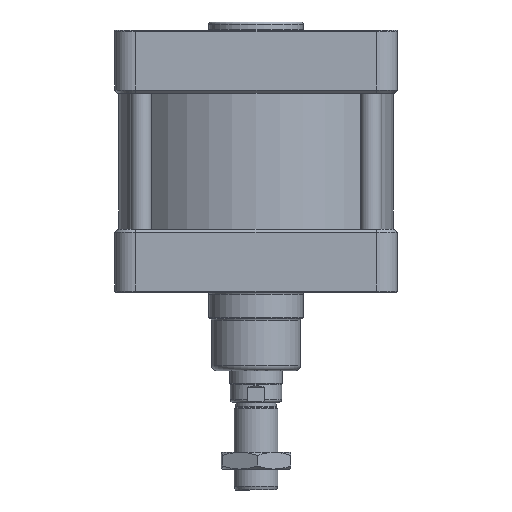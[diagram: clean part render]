
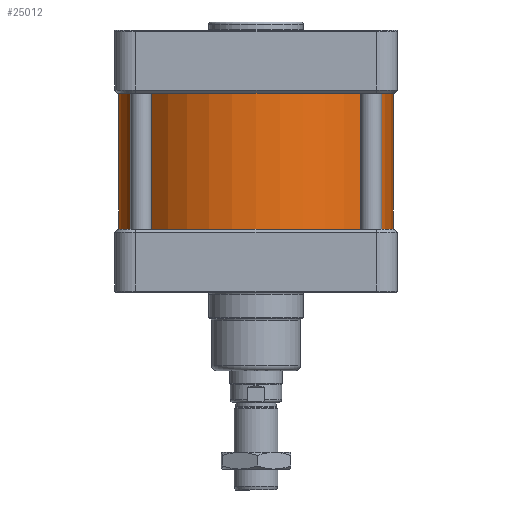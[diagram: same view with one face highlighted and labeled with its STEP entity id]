
A CAD part, front view. The second image highlights one B-rep face of the part: STEP entity #25012.
In plain terms, the highlighted cylindrical face has radius 131 mm (diameter 262 mm), a full revolution.
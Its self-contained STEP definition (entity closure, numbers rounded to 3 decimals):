
#2234=LINE('',#43870,#3025);
#3025=VECTOR('',#29768,1000.);
#6059=ORIENTED_EDGE('',*,*,#9876,.F.);
#6060=ORIENTED_EDGE('',*,*,#9879,.T.);
#6061=ORIENTED_EDGE('',*,*,#9880,.F.);
#6062=ORIENTED_EDGE('',*,*,#9879,.F.);
#9876=EDGE_CURVE('',#11909,#11909,#13088,.T.);
#9879=EDGE_CURVE('',#11909,#11911,#2234,.T.);
#9880=EDGE_CURVE('',#11911,#11911,#13090,.T.);
#11909=VERTEX_POINT('',#43864);
#11911=VERTEX_POINT('',#43871);
#13088=CIRCLE('',#26565,131.);
#13090=CIRCLE('',#26569,131.);
#14106=EDGE_LOOP('',(#6059,#6060,#6061,#6062));
#15374=FACE_BOUND('',#14106,.T.);
#16185=CYLINDRICAL_SURFACE('',#26568,131.);
#25012=ADVANCED_FACE('',(#15374),#16185,.T.);
#26565=AXIS2_PLACEMENT_3D('',#43863,#29759,#29760);
#26568=AXIS2_PLACEMENT_3D('',#43869,#29766,#29767);
#26569=AXIS2_PLACEMENT_3D('',#43872,#29769,#29770);
#29759=DIRECTION('',(0.,1.,0.));
#29760=DIRECTION('',(1.,0.,0.));
#29766=DIRECTION('',(0.,1.,0.));
#29767=DIRECTION('',(1.,0.,0.));
#29768=DIRECTION('',(0.,-1.,0.));
#29769=DIRECTION('',(0.,-1.,0.));
#29770=DIRECTION('',(1.,0.,0.));
#43863=CARTESIAN_POINT('',(0.,52.3,0.));
#43864=CARTESIAN_POINT('',(-131.,52.3,0.));
#43869=CARTESIAN_POINT('',(0.,0.,0.));
#43870=CARTESIAN_POINT('',(-131.,0.,0.));
#43871=CARTESIAN_POINT('',(-131.,-77.3,0.));
#43872=CARTESIAN_POINT('',(0.,-77.3,0.));
